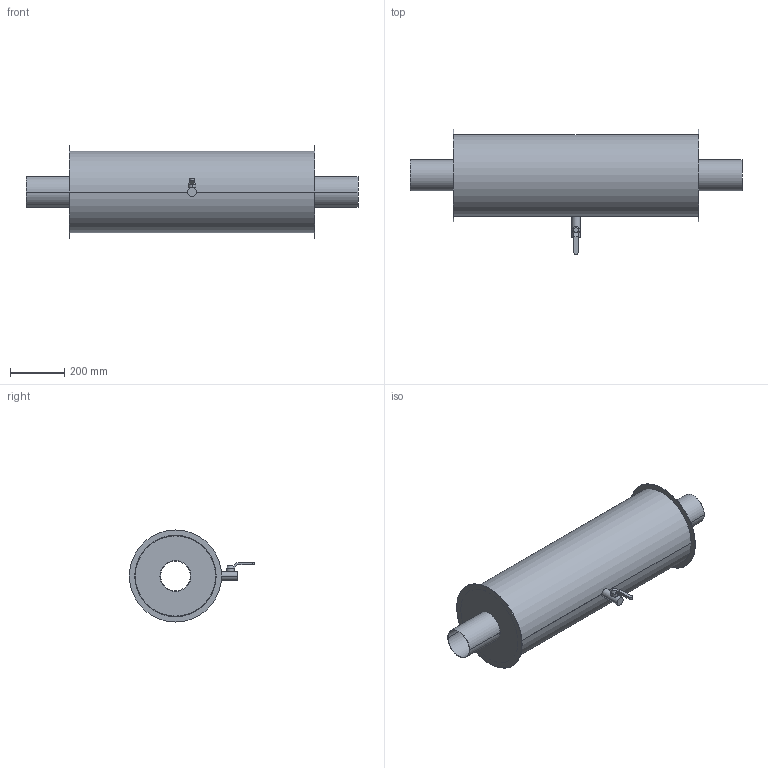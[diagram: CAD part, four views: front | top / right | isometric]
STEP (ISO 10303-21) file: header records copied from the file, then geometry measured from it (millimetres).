
FILE_DESCRIPTION((''),'2;1');
FILE_NAME('51548401','2020-10-30T08:44:30',('slc'),('HUBER SE'),'CREO PARAMETRIC BY PTC INC, 2019224','CREO PARAMETRIC BY PTC INC, 2019224','');
FILE_SCHEMA(('AUTOMOTIVE_DESIGN { 1 0 10303 214 1 1 1 1 }'));
Length unit declared in the file: millimetre
Products named in the file (1): 51548401
Bounding box: 1225 x 462 x 340 mm (x, y, z)
Volume: 2323824.4 mm3; surface area: 2257158.6 mm2
Topology: 4 solids, 4 shells, 43 faces, 85 edges, 56 vertices
Faces by surface type: cylinder 21, plane 20, cone 2
Entity records: 1630 total; most frequent: DIRECTION 215, CARTESIAN_POINT 186, ORIENTED_EDGE 170, COLOUR_RGB 106, AXIS2_PLACEMENT_3D 87, EDGE_CURVE 85, PROPERTY_DEFINITION 67, REPRESENTATION 66
